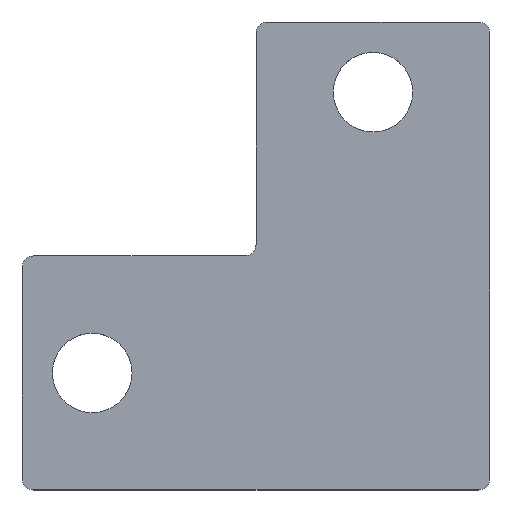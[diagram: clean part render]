
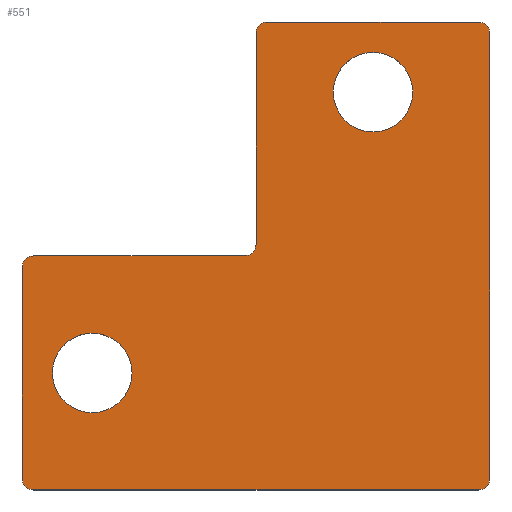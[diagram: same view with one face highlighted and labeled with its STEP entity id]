
A CAD part, top view. The second image highlights one B-rep face of the part: STEP entity #551.
In plain terms, the highlighted planar face has unit normal (0, 0, 1).
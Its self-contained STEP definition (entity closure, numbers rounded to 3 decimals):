
#3 = CARTESIAN_POINT ( 'NONE',  ( 0., 39., 4. ) ) ;
#10 = FACE_BOUND ( 'NONE', #389, .T. ) ;
#12 = CARTESIAN_POINT ( 'NONE',  ( -20., 21., 4. ) ) ;
#23 = CARTESIAN_POINT ( 'NONE',  ( -13.4, 34., 4. ) ) ;
#24 = DIRECTION ( 'NONE',  ( 1., 0., 0. ) ) ;
#25 = VERTEX_POINT ( 'NONE', #484 ) ;
#27 = DIRECTION ( 'NONE',  ( 0., 0., 1. ) ) ;
#31 = EDGE_CURVE ( 'NONE', #228, #25, #674, .T. ) ;
#40 = ORIENTED_EDGE ( 'NONE', *, *, #662, .F. ) ;
#41 = VECTOR ( 'NONE', #642, 1000. ) ;
#44 = CARTESIAN_POINT ( 'NONE',  ( 0., 39., 4. ) ) ;
#46 = DIRECTION ( 'NONE',  ( 0., -1., 0. ) ) ;
#55 = FACE_OUTER_BOUND ( 'NONE', #404, .T. ) ;
#61 = AXIS2_PLACEMENT_3D ( 'NONE', #383, #164, #216 ) ;
#70 = EDGE_CURVE ( 'NONE', #254, #500, #545, .T. ) ;
#71 = ORIENTED_EDGE ( 'NONE', *, *, #296, .T. ) ;
#72 = LINE ( 'NONE', #421, #512 ) ;
#87 = VERTEX_POINT ( 'NONE', #196 ) ;
#92 = VECTOR ( 'NONE', #322, 1000. ) ;
#97 = LINE ( 'NONE', #274, #501 ) ;
#137 = ORIENTED_EDGE ( 'NONE', *, *, #451, .F. ) ;
#146 = EDGE_CURVE ( 'NONE', #487, #513, #273, .T. ) ;
#147 = DIRECTION ( 'NONE',  ( 0., 0., 1. ) ) ;
#150 = VERTEX_POINT ( 'NONE', #381 ) ;
#151 = LINE ( 'NONE', #369, #41 ) ;
#152 = CARTESIAN_POINT ( 'NONE',  ( -20., 39., 4. ) ) ;
#153 = EDGE_CURVE ( 'NONE', #310, #406, #392, .T. ) ;
#160 = DIRECTION ( 'NONE',  ( -1., 0., 0. ) ) ;
#164 = DIRECTION ( 'NONE',  ( 0., 0., 1. ) ) ;
#166 = DIRECTION ( 'NONE',  ( 1., 0., 0. ) ) ;
#169 = CARTESIAN_POINT ( 'NONE',  ( -19., 40., 4. ) ) ;
#176 = ORIENTED_EDGE ( 'NONE', *, *, #370, .T. ) ;
#178 = EDGE_CURVE ( 'NONE', #150, #364, #673, .T. ) ;
#182 = CARTESIAN_POINT ( 'NONE',  ( -1., 1., 4. ) ) ;
#186 = DIRECTION ( 'NONE',  ( 0., 0., 1. ) ) ;
#193 = ORIENTED_EDGE ( 'NONE', *, *, #263, .T. ) ;
#196 = CARTESIAN_POINT ( 'NONE',  ( -39., 0., 4. ) ) ;
#202 = CIRCLE ( 'NONE', #283, 3.4 ) ;
#212 = AXIS2_PLACEMENT_3D ( 'NONE', #423, #536, #213 ) ;
#213 = DIRECTION ( 'NONE',  ( 1., 0., 0. ) ) ;
#216 = DIRECTION ( 'NONE',  ( 1., 0., 0. ) ) ;
#225 = CARTESIAN_POINT ( 'NONE',  ( -1., 1., 4. ) ) ;
#228 = VERTEX_POINT ( 'NONE', #12 ) ;
#229 = EDGE_CURVE ( 'NONE', #25, #487, #602, .T. ) ;
#232 = DIRECTION ( 'NONE',  ( 1., 0., 0. ) ) ;
#235 = AXIS2_PLACEMENT_3D ( 'NONE', #503, #27, #236 ) ;
#236 = DIRECTION ( 'NONE',  ( 1., 0., 0. ) ) ;
#247 = VERTEX_POINT ( 'NONE', #594 ) ;
#248 = LINE ( 'NONE', #306, #457 ) ;
#250 = CARTESIAN_POINT ( 'NONE',  ( -37.4, 10., 4. ) ) ;
#252 = CIRCLE ( 'NONE', #393, 3.4 ) ;
#254 = VERTEX_POINT ( 'NONE', #169 ) ;
#263 = EDGE_CURVE ( 'NONE', #364, #310, #275, .T. ) ;
#264 = ORIENTED_EDGE ( 'NONE', *, *, #146, .T. ) ;
#273 = CIRCLE ( 'NONE', #61, 1. ) ;
#274 = CARTESIAN_POINT ( 'NONE',  ( -19., 40., 4. ) ) ;
#275 = LINE ( 'NONE', #3, #655 ) ;
#276 = ORIENTED_EDGE ( 'NONE', *, *, #70, .T. ) ;
#277 = FACE_BOUND ( 'NONE', #653, .T. ) ;
#283 = AXIS2_PLACEMENT_3D ( 'NONE', #635, #522, #675 ) ;
#286 = DIRECTION ( 'NONE',  ( -1., 0., 0. ) ) ;
#291 = DIRECTION ( 'NONE',  ( 0., 0., 1. ) ) ;
#296 = EDGE_CURVE ( 'NONE', #406, #254, #97, .T. ) ;
#299 = CARTESIAN_POINT ( 'NONE',  ( -10., 34., 4. ) ) ;
#300 = CARTESIAN_POINT ( 'NONE',  ( -19., 39., 4. ) ) ;
#305 = CIRCLE ( 'NONE', #235, 1. ) ;
#306 = CARTESIAN_POINT ( 'NONE',  ( -20., 21., 4. ) ) ;
#307 = DIRECTION ( 'NONE',  ( 1., 0., 0. ) ) ;
#310 = VERTEX_POINT ( 'NONE', #44 ) ;
#316 = CARTESIAN_POINT ( 'NONE',  ( 0., 1., 4. ) ) ;
#321 = ORIENTED_EDGE ( 'NONE', *, *, #229, .T. ) ;
#322 = DIRECTION ( 'NONE',  ( -1., 0., 0. ) ) ;
#327 = DIRECTION ( 'NONE',  ( 0., 0., 1. ) ) ;
#333 = DIRECTION ( 'NONE',  ( 0., 0., 1. ) ) ;
#341 = CARTESIAN_POINT ( 'NONE',  ( -40., 1., 4. ) ) ;
#353 = ORIENTED_EDGE ( 'NONE', *, *, #178, .T. ) ;
#356 = DIRECTION ( 'NONE',  ( 0., 0., 1. ) ) ;
#359 = DIRECTION ( 'NONE',  ( 1., 0., 0. ) ) ;
#362 = CARTESIAN_POINT ( 'NONE',  ( -6.6, 34., 4. ) ) ;
#364 = VERTEX_POINT ( 'NONE', #316 ) ;
#366 = ORIENTED_EDGE ( 'NONE', *, *, #519, .T. ) ;
#368 = CARTESIAN_POINT ( 'NONE',  ( -39., 20., 4. ) ) ;
#369 = CARTESIAN_POINT ( 'NONE',  ( -1., 0., 4. ) ) ;
#370 = EDGE_CURVE ( 'NONE', #87, #150, #151, .T. ) ;
#374 = AXIS2_PLACEMENT_3D ( 'NONE', #300, #186, #661 ) ;
#381 = CARTESIAN_POINT ( 'NONE',  ( -1., 0., 4. ) ) ;
#383 = CARTESIAN_POINT ( 'NONE',  ( -39., 19., 4. ) ) ;
#389 = EDGE_LOOP ( 'NONE', ( #608, #137 ) ) ;
#391 = EDGE_CURVE ( 'NONE', #247, #525, #419, .T. ) ;
#392 = CIRCLE ( 'NONE', #400, 1. ) ;
#393 = AXIS2_PLACEMENT_3D ( 'NONE', #470, #147, #307 ) ;
#400 = AXIS2_PLACEMENT_3D ( 'NONE', #530, #333, #24 ) ;
#402 = PLANE ( 'NONE',  #521 ) ;
#404 = EDGE_LOOP ( 'NONE', ( #353, #193, #436, #71, #276, #669, #596, #321, #264, #424, #366, #176 ) ) ;
#406 = VERTEX_POINT ( 'NONE', #638 ) ;
#412 = EDGE_CURVE ( 'NONE', #500, #228, #248, .T. ) ;
#419 = CIRCLE ( 'NONE', #212, 3.4 ) ;
#421 = CARTESIAN_POINT ( 'NONE',  ( -40., 1., 4. ) ) ;
#422 = VERTEX_POINT ( 'NONE', #362 ) ;
#423 = CARTESIAN_POINT ( 'NONE',  ( -34., 10., 4. ) ) ;
#424 = ORIENTED_EDGE ( 'NONE', *, *, #442, .T. ) ;
#425 = ORIENTED_EDGE ( 'NONE', *, *, #514, .F. ) ;
#436 = ORIENTED_EDGE ( 'NONE', *, *, #153, .T. ) ;
#442 = EDGE_CURVE ( 'NONE', #513, #567, #72, .T. ) ;
#444 = DIRECTION ( 'NONE',  ( 0., 0., -1. ) ) ;
#451 = EDGE_CURVE ( 'NONE', #525, #247, #202, .T. ) ;
#457 = VECTOR ( 'NONE', #46, 1000. ) ;
#470 = CARTESIAN_POINT ( 'NONE',  ( -10., 34., 4. ) ) ;
#482 = AXIS2_PLACEMENT_3D ( 'NONE', #606, #444, #286 ) ;
#484 = CARTESIAN_POINT ( 'NONE',  ( -21., 20., 4. ) ) ;
#487 = VERTEX_POINT ( 'NONE', #368 ) ;
#497 = AXIS2_PLACEMENT_3D ( 'NONE', #299, #356, #359 ) ;
#500 = VERTEX_POINT ( 'NONE', #152 ) ;
#501 = VECTOR ( 'NONE', #160, 1000. ) ;
#503 = CARTESIAN_POINT ( 'NONE',  ( -39., 1., 4. ) ) ;
#512 = VECTOR ( 'NONE', #577, 1000. ) ;
#513 = VERTEX_POINT ( 'NONE', #573 ) ;
#514 = EDGE_CURVE ( 'NONE', #422, #600, #252, .T. ) ;
#519 = EDGE_CURVE ( 'NONE', #567, #87, #305, .T. ) ;
#521 = AXIS2_PLACEMENT_3D ( 'NONE', #182, #291, #232 ) ;
#522 = DIRECTION ( 'NONE',  ( 0., 0., 1. ) ) ;
#525 = VERTEX_POINT ( 'NONE', #250 ) ;
#530 = CARTESIAN_POINT ( 'NONE',  ( -1., 39., 4. ) ) ;
#536 = DIRECTION ( 'NONE',  ( 0., 0., 1. ) ) ;
#545 = CIRCLE ( 'NONE', #374, 1. ) ;
#551 = ADVANCED_FACE ( 'NONE', ( #277, #10, #55 ), #402, .T. ) ;
#560 = AXIS2_PLACEMENT_3D ( 'NONE', #225, #327, #166 ) ;
#567 = VERTEX_POINT ( 'NONE', #341 ) ;
#573 = CARTESIAN_POINT ( 'NONE',  ( -40., 19., 4. ) ) ;
#577 = DIRECTION ( 'NONE',  ( 0., -1., 0. ) ) ;
#581 = CIRCLE ( 'NONE', #497, 3.4 ) ;
#584 = DIRECTION ( 'NONE',  ( 0., 1., 0. ) ) ;
#594 = CARTESIAN_POINT ( 'NONE',  ( -30.6, 10., 4. ) ) ;
#596 = ORIENTED_EDGE ( 'NONE', *, *, #31, .T. ) ;
#600 = VERTEX_POINT ( 'NONE', #23 ) ;
#602 = LINE ( 'NONE', #646, #92 ) ;
#606 = CARTESIAN_POINT ( 'NONE',  ( -21., 21., 4. ) ) ;
#608 = ORIENTED_EDGE ( 'NONE', *, *, #391, .F. ) ;
#635 = CARTESIAN_POINT ( 'NONE',  ( -34., 10., 4. ) ) ;
#638 = CARTESIAN_POINT ( 'NONE',  ( -1., 40., 4. ) ) ;
#642 = DIRECTION ( 'NONE',  ( 1., 0., 0. ) ) ;
#646 = CARTESIAN_POINT ( 'NONE',  ( -39., 20., 4. ) ) ;
#653 = EDGE_LOOP ( 'NONE', ( #425, #40 ) ) ;
#655 = VECTOR ( 'NONE', #584, 1000. ) ;
#661 = DIRECTION ( 'NONE',  ( -1., 0., 0. ) ) ;
#662 = EDGE_CURVE ( 'NONE', #600, #422, #581, .T. ) ;
#669 = ORIENTED_EDGE ( 'NONE', *, *, #412, .T. ) ;
#673 = CIRCLE ( 'NONE', #560, 1. ) ;
#674 = CIRCLE ( 'NONE', #482, 1. ) ;
#675 = DIRECTION ( 'NONE',  ( 1., 0., 0. ) ) ;
